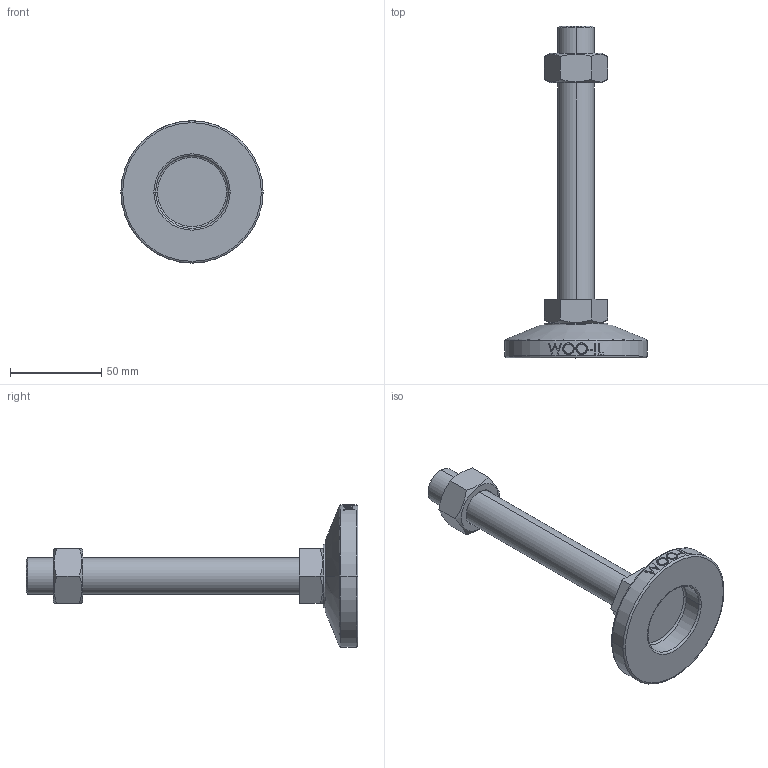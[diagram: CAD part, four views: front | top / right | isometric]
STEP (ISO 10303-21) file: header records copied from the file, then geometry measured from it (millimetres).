
FILE_DESCRIPTION (( 'STEP AP214' ), '1' );
FILE_NAME ('MFT78-M20-150.step', '2021-03-29T04:44:29', ( '' ), ( '' ), 'SwSTEP 2.0', 'SolidWorks 2019', '' );
FILE_SCHEMA (( 'AUTOMOTIVE_DESIGN' ));
Length unit declared in the file: millimetre
Products named in the file (2): MFT78-M20-150
Bounding box: 78 x 182 x 78 mm (x, y, z)
Volume: 121100.4 mm3; surface area: 29278.2 mm2
Topology: 3 solids, 3 shells, 106 faces, 247 edges, 158 vertices
Faces by surface type: plane 48, cylinder 18, bspline 16, cone 14, torus 10
Entity records: 4550 total; most frequent: CARTESIAN_POINT 2187, ORIENTED_EDGE 494, DIRECTION 439, EDGE_CURVE 247, AXIS2_PLACEMENT_3D 170, VERTEX_POINT 158, EDGE_LOOP 119, ADVANCED_FACE 106
